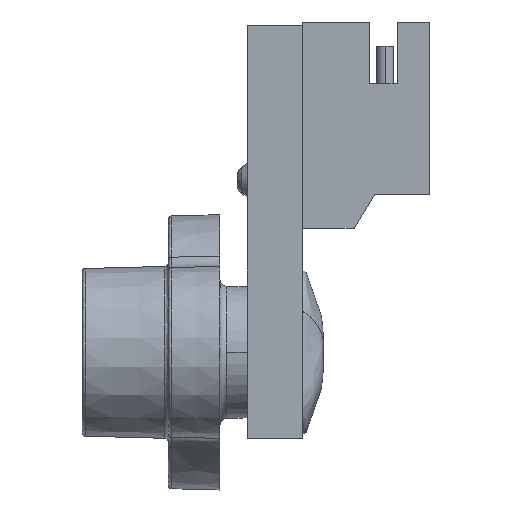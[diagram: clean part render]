
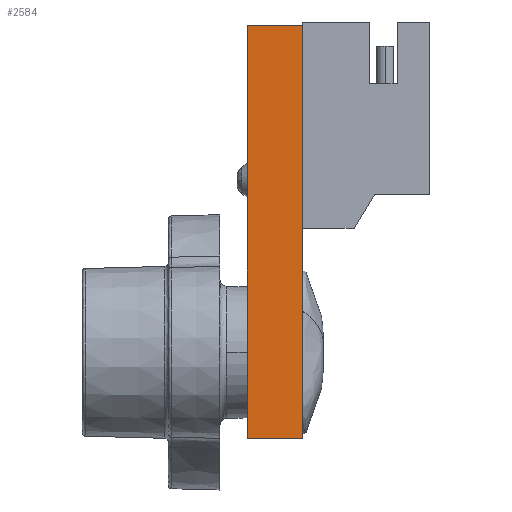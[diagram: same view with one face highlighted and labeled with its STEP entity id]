
A CAD part, left-side view. The second image highlights one B-rep face of the part: STEP entity #2584.
In plain terms, the highlighted planar face has unit normal (-1, 0, 0).
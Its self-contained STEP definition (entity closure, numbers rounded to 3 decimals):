
#719 = DIRECTION ( 'NONE',  ( 0., -1., 0. ) ) ;
#1085 = EDGE_CURVE ( 'NONE', #4686, #15705, #5196, .T. ) ;
#1706 = CARTESIAN_POINT ( 'NONE',  ( -5., 1.6, -6. ) ) ;
#2185 = ORIENTED_EDGE ( 'NONE', *, *, #13817, .F. ) ;
#2584 = ADVANCED_FACE ( 'NONE', ( #10954 ), #12160, .F. ) ;
#3179 = ORIENTED_EDGE ( 'NONE', *, *, #15662, .F. ) ;
#3935 = CARTESIAN_POINT ( 'NONE',  ( -5., 1.6, 6. ) ) ;
#4686 = VERTEX_POINT ( 'NONE', #11848 ) ;
#4896 = VECTOR ( 'NONE', #12680, 1000. ) ;
#5196 = LINE ( 'NONE', #3935, #4896 ) ;
#5742 = CARTESIAN_POINT ( 'NONE',  ( -5., 0., -6. ) ) ;
#5788 = LINE ( 'NONE', #10767, #14084 ) ;
#6548 = VECTOR ( 'NONE', #13038, 1000. ) ;
#6768 = CARTESIAN_POINT ( 'NONE',  ( -5., 1.6, -6. ) ) ;
#8110 = CARTESIAN_POINT ( 'NONE',  ( -5., 0., 0. ) ) ;
#8434 = ORIENTED_EDGE ( 'NONE', *, *, #10124, .T. ) ;
#8538 = DIRECTION ( 'NONE',  ( 1., 0., 0. ) ) ;
#8739 = VECTOR ( 'NONE', #719, 1000. ) ;
#9233 = VERTEX_POINT ( 'NONE', #5742 ) ;
#10124 = EDGE_CURVE ( 'NONE', #15657, #9233, #10446, .T. ) ;
#10446 = LINE ( 'NONE', #1706, #8739 ) ;
#10639 = DIRECTION ( 'NONE',  ( 0., 0., -1. ) ) ;
#10767 = CARTESIAN_POINT ( 'NONE',  ( -5., 1.6, 6. ) ) ;
#10954 = FACE_OUTER_BOUND ( 'NONE', #14795, .T. ) ;
#11308 = AXIS2_PLACEMENT_3D ( 'NONE', #15898, #8538, #10639 ) ;
#11430 = ORIENTED_EDGE ( 'NONE', *, *, #1085, .F. ) ;
#11848 = CARTESIAN_POINT ( 'NONE',  ( -5., 1.6, 6. ) ) ;
#12160 = PLANE ( 'NONE',  #11308 ) ;
#12680 = DIRECTION ( 'NONE',  ( 0., -1., 0. ) ) ;
#12909 = DIRECTION ( 'NONE',  ( 0., 0., 1. ) ) ;
#13038 = DIRECTION ( 'NONE',  ( 0., 0., -1. ) ) ;
#13817 = EDGE_CURVE ( 'NONE', #15705, #9233, #15385, .T. ) ;
#14084 = VECTOR ( 'NONE', #12909, 1000. ) ;
#14795 = EDGE_LOOP ( 'NONE', ( #11430, #3179, #8434, #2185 ) ) ;
#15385 = LINE ( 'NONE', #8110, #6548 ) ;
#15560 = CARTESIAN_POINT ( 'NONE',  ( -5., 0., 6. ) ) ;
#15657 = VERTEX_POINT ( 'NONE', #6768 ) ;
#15662 = EDGE_CURVE ( 'NONE', #15657, #4686, #5788, .T. ) ;
#15705 = VERTEX_POINT ( 'NONE', #15560 ) ;
#15898 = CARTESIAN_POINT ( 'NONE',  ( -5., 1.6, 6. ) ) ;
